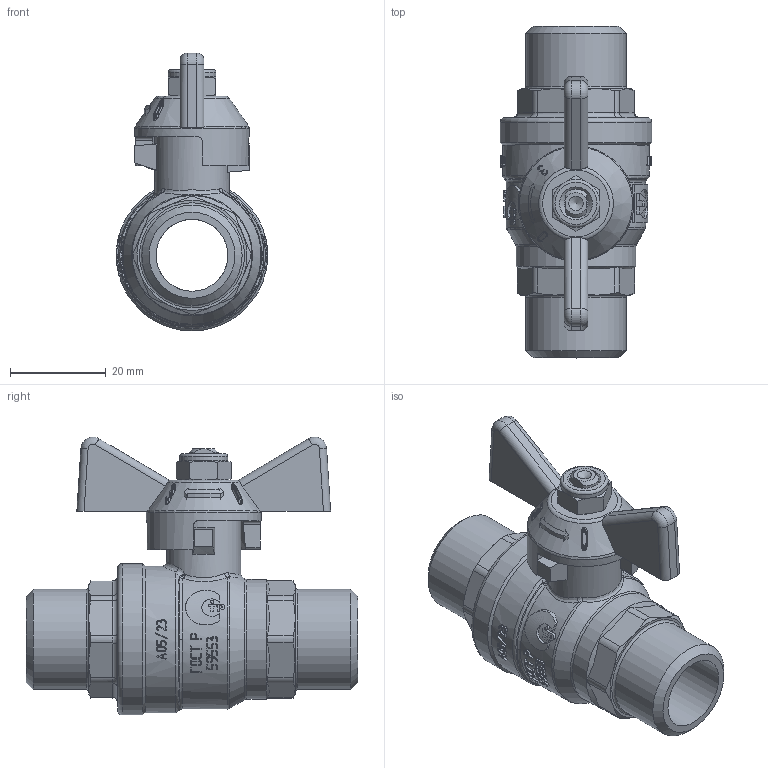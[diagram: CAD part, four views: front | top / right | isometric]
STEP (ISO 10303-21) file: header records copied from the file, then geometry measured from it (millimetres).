
FILE_DESCRIPTION(('STEP AP203'), '1');
FILE_NAME('VT.419.N.04', '', ('UNSPECIFIED'), ('UNSPECIFIED'), 'C3D Converter', 'C3D Toolkit', '');
FILE_SCHEMA(('CONFIG_CONTROL_DESIGN'));
Length unit declared in the file: millimetre
Products named in the file (1): ВР.491811.001.000 СБ
Bounding box: 31.6 x 69.3 x 58.05 mm (x, y, z)
Volume: 30641.1 mm3; surface area: 13570.3 mm2
Topology: 1 solids, 1 shells, 1116 faces, 3112 edges, 2046 vertices
Faces by surface type: extrusion 540, plane 379, cylinder 113, cone 41, torus 31, bspline 12
Full cylindrical faces by diameter (mm): 0.644 x1, 4 x1, 10 x1, 15 x5, 15.5 x1, 20.955 x2, 24 x1, 25 x1, 30.6 x1, 31.6 x1
Entity records: 50248 total; most frequent: CARTESIAN_POINT 24461, ORIENTED_EDGE 6108, DIRECTION 3713, EDGE_CURVE 3054, VERTEX_POINT 2035, B_SPLINE_CURVE_WITH_KNOTS 1852, VECTOR 1729, EDGE_LOOP 1213
